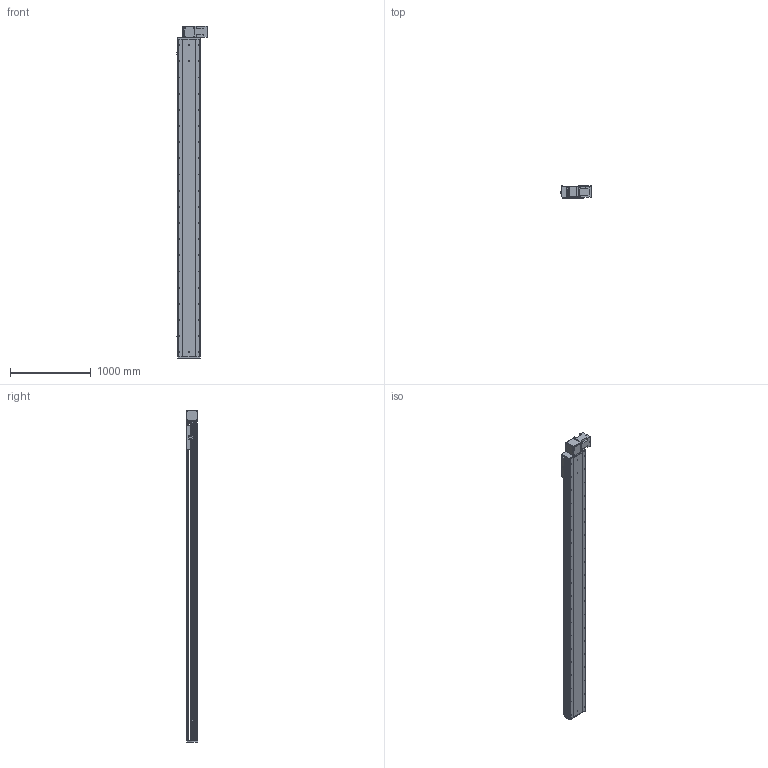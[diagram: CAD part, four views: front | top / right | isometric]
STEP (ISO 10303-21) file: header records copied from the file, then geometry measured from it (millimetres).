
FILE_DESCRIPTION (( 'STEP AP214' ), '1' );
FILE_NAME ('RTB28S-XX-3500-BL-M100-XX-C4.STEP', '2025-12-22T02:39:28', ( '' ), ( '' ), 'SwSTEP 2.0', 'SolidWorks 2018', '' );
FILE_SCHEMA (( 'AUTOMOTIVE_DESIGN' ));
Length unit declared in the file: millimetre
Products named in the file (4): RTB28S-GY-011^RTB28S-XX-XX-BL-M100-XX-C4; RTB28S-GY-008^RTB28S-XX-XX-BL-M100-XX-C4; RTB28S-GY-004^RTB28S-XX-XX-BL-M100-XX-C4; RTB28S-XX-3500-BL-M100-XX-C4
Assembly tree (3 placements, depth 2):
  RTB28S-XX-3500-BL-M100-XX-C4
    RTB28S-GY-011^RTB28S-XX-XX-BL-M100-XX-C4
    RTB28S-GY-004^RTB28S-XX-XX-BL-M100-XX-C4
    RTB28S-GY-008^RTB28S-XX-XX-BL-M100-XX-C4
Bounding box: 380.7 x 145 x 4107 mm (x, y, z)
Volume: 68990533.5 mm3; surface area: 6412754.6 mm2
Topology: 3 solids, 4 shells, 908 faces, 2448 edges, 1568 vertices
Faces by surface type: cylinder 455, plane 369, cone 80, torus 4
Entity records: 35345 total; most frequent: CARTESIAN_POINT 6802, DIRECTION 5214, ORIENTED_EDGE 4832, EDGE_CURVE 2416, AXIS2_PLACEMENT_3D 1932, VERTEX_POINT 1568, LINE 1350, VECTOR 1350
